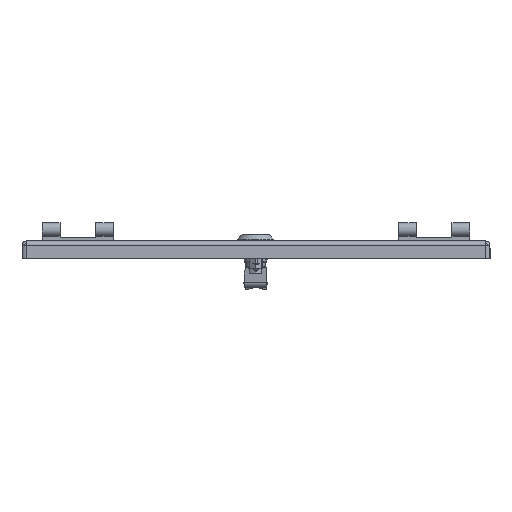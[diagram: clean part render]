
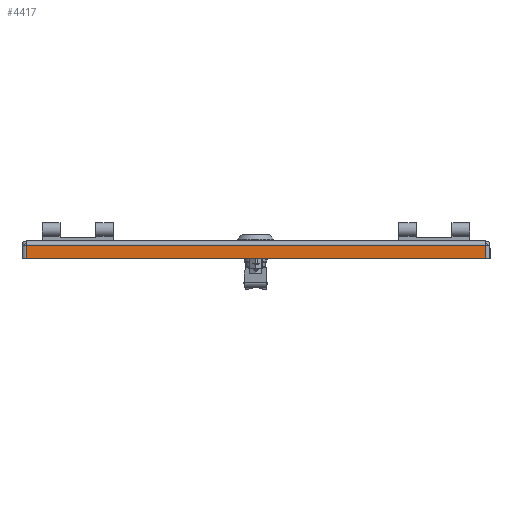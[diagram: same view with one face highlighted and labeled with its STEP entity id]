
A CAD part, left-side view. The second image highlights one B-rep face of the part: STEP entity #4417.
In plain terms, the highlighted planar face has unit normal (-1, 0, 0).
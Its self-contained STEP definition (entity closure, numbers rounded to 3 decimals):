
#1870 = LINE ( 'NONE', #1946, #1876 ) ;
#1876 = VECTOR ( 'NONE', #1961, 1000. ) ;
#1878 = LINE ( 'NONE', #1962, #1880 ) ;
#1879 = LINE ( 'NONE', #1964, #1882 ) ;
#1880 = VECTOR ( 'NONE', #1963, 1000. ) ;
#1882 = VECTOR ( 'NONE', #1965, 1000. ) ;
#1946 = CARTESIAN_POINT ( 'NONE',  ( -392.5, -193.5, -15. ) ) ;
#1961 = DIRECTION ( 'NONE',  ( 0., 0., 1. ) ) ;
#1962 = CARTESIAN_POINT ( 'NONE',  ( -392.5, 197., -3.5 ) ) ;
#1963 = DIRECTION ( 'NONE',  ( 0., 1., 0. ) ) ;
#1964 = CARTESIAN_POINT ( 'NONE',  ( -392.5, 193.5, -15. ) ) ;
#1965 = DIRECTION ( 'NONE',  ( 0., 0., -1. ) ) ;
#4158 = AXIS2_PLACEMENT_3D ( 'NONE', #6767, #6772, #6773 ) ;
#4417 = ADVANCED_FACE ( 'NONE', ( #9117 ), #6766, .T. ) ;
#6203 = VERTEX_POINT ( 'NONE', #7767 ) ;
#6206 = VERTEX_POINT ( 'NONE', #7770 ) ;
#6214 = VERTEX_POINT ( 'NONE', #7778 ) ;
#6216 = VERTEX_POINT ( 'NONE', #7780 ) ;
#6591 = ORIENTED_EDGE ( 'NONE', *, *, #9551, .T. ) ;
#6592 = ORIENTED_EDGE ( 'NONE', *, *, #10042, .T. ) ;
#6593 = ORIENTED_EDGE ( 'NONE', *, *, #10043, .T. ) ;
#6594 = ORIENTED_EDGE ( 'NONE', *, *, #10044, .T. ) ;
#6766 = PLANE ( 'NONE',  #4158 ) ;
#6767 = CARTESIAN_POINT ( 'NONE',  ( -392.5, 197., -15. ) ) ;
#6772 = DIRECTION ( 'NONE',  ( -1., 0., 0. ) ) ;
#6773 = DIRECTION ( 'NONE',  ( 0., -1., 0. ) ) ;
#7767 = CARTESIAN_POINT ( 'NONE',  ( -392.5, 193.5, -15. ) ) ;
#7770 = CARTESIAN_POINT ( 'NONE',  ( -392.5, -193.5, -15. ) ) ;
#7778 = CARTESIAN_POINT ( 'NONE',  ( -392.5, -193.5, -3.5 ) ) ;
#7780 = CARTESIAN_POINT ( 'NONE',  ( -392.5, 193.5, -3.5 ) ) ;
#7812 = DIRECTION ( 'NONE',  ( 0., -1., 0. ) ) ;
#7813 = CARTESIAN_POINT ( 'NONE',  ( -392.5, 197., -15. ) ) ;
#9117 = FACE_OUTER_BOUND ( 'NONE', #10868, .T. ) ;
#9429 = VECTOR ( 'NONE', #7812, 1000. ) ;
#9430 = LINE ( 'NONE', #7813, #9429 ) ;
#9551 = EDGE_CURVE ( 'NONE', #6203, #6206, #9430, .T. ) ;
#10042 = EDGE_CURVE ( 'NONE', #6206, #6214, #1870, .T. ) ;
#10043 = EDGE_CURVE ( 'NONE', #6214, #6216, #1878, .T. ) ;
#10044 = EDGE_CURVE ( 'NONE', #6216, #6203, #1879, .T. ) ;
#10868 = EDGE_LOOP ( 'NONE', ( #6591, #6592, #6593, #6594 ) ) ;
